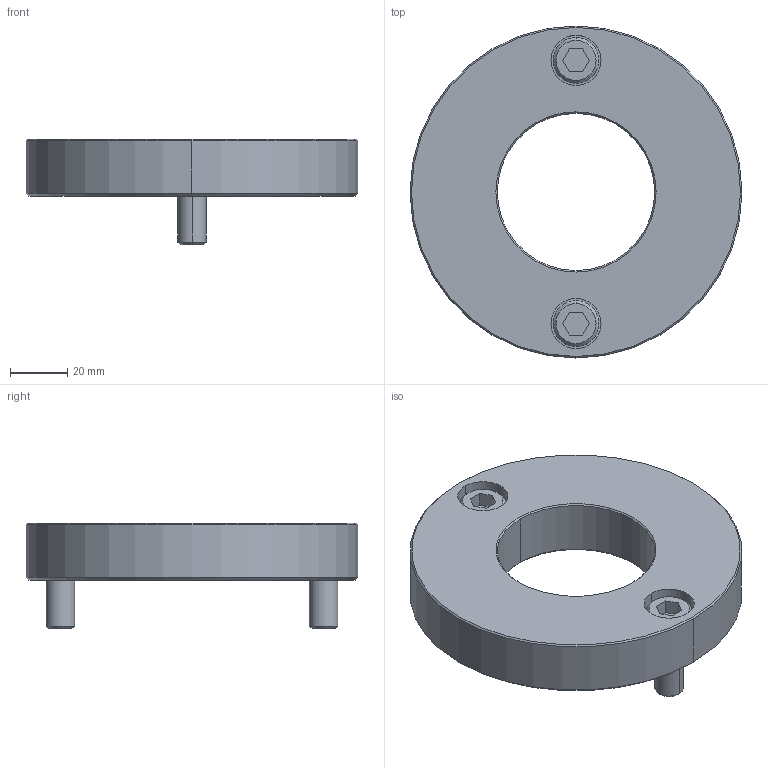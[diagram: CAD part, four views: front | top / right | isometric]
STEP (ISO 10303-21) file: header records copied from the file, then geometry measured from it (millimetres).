
FILE_DESCRIPTION((''),'2;1');
FILE_NAME('','2010-08-30T17:29:38+09:00',('misumi'),(''),'M/STEP i/f 1R2-14','CADmeister v5.1','');
FILE_SCHEMA(('AUTOMOTIVE_DESIGN'));
Length unit declared in the file: millimetre
Products named in the file (1): KEB50-20-R
Bounding box: 116 x 116 x 37 mm (x, y, z)
Volume: 163537.3 mm3; surface area: 31706 mm2
Topology: 3 solids, 3 shells, 60 faces, 128 edges, 80 vertices
Faces by surface type: plane 24, cylinder 20, cone 16
Entity records: 1742 total; most frequent: DIRECTION 306, CARTESIAN_POINT 269, ORIENTED_EDGE 256, EDGE_CURVE 128, AXIS2_PLACEMENT_3D 117, VERTEX_POINT 80, LINE 72, VECTOR 72
